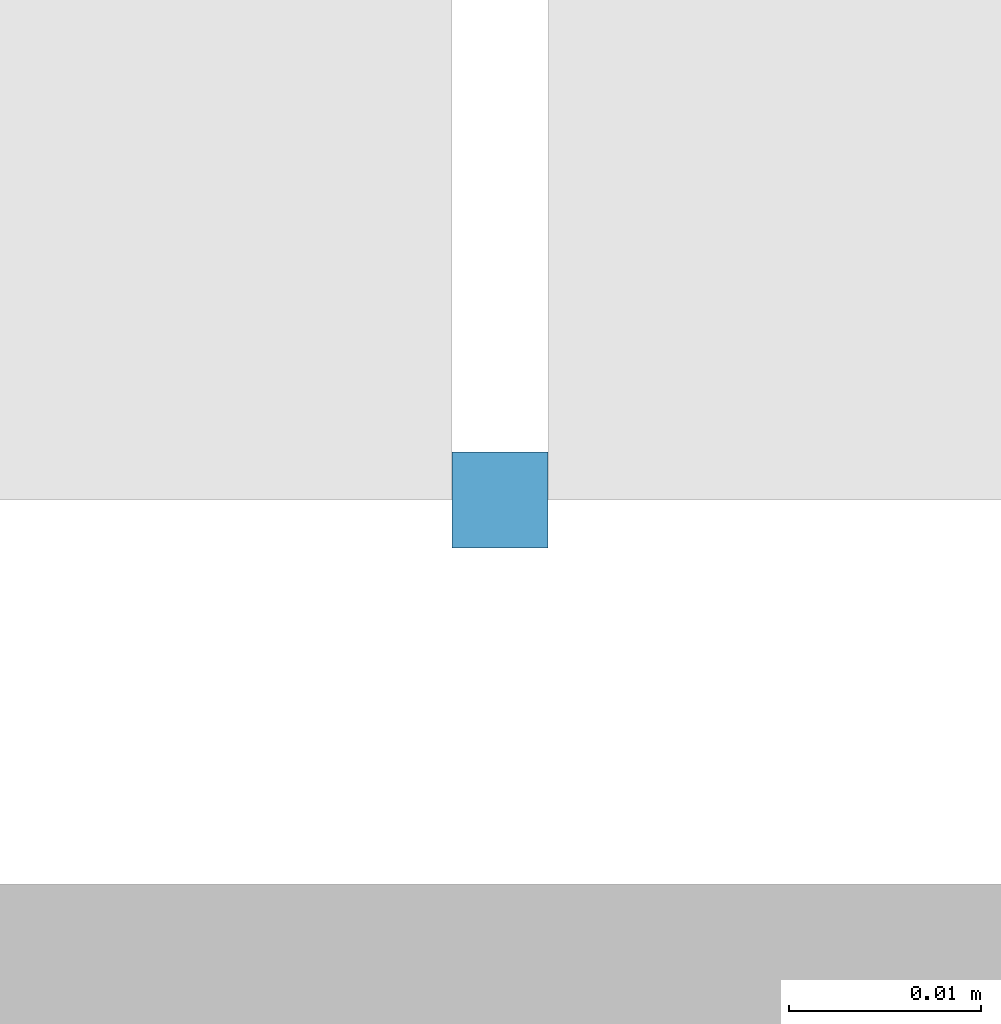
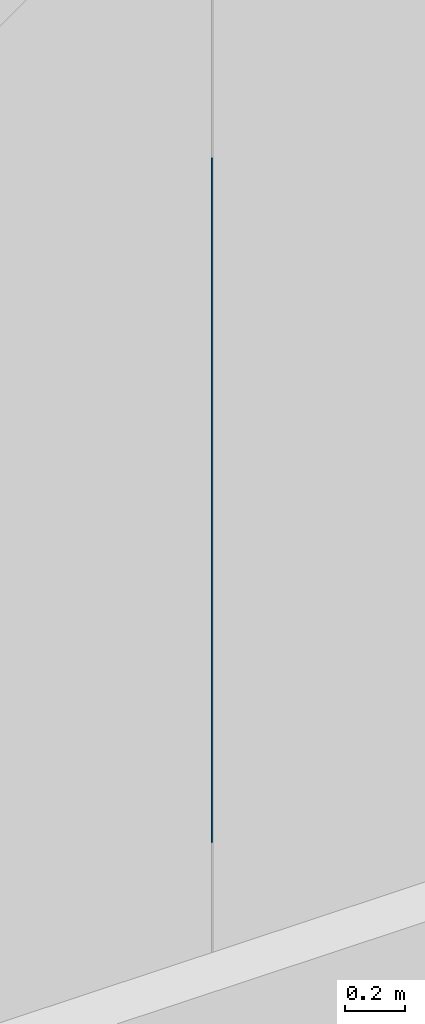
# One storey, part 96 of 302: 1 member, 1 element without a shape of its own.
"""IFC2X3 building model written with IfcOpenShell, lengths in metres."""

from ifc_helpers import new_model, entity, si_unit, converted_unit, derived_unit, direction, frame, frame_2d, origin, place, context, subcontext, project, spatial, rectangle, extrude, source, transform, mapped, material, type_object, type_shapes, element, aggregate, save


model = new_model("IFC2X3")

# Units and contexts
model_context = context("Model", 3, precision=1e-05, world=origin(), true_north=direction((6.12303176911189e-17, 1.0)))
body_context = subcontext(model_context, "Body", "Model", "MODEL_VIEW")
ifc_project = project(units=[si_unit("LENGTHUNIT", "METRE"), si_unit("AREAUNIT", "SQUARE_METRE"), si_unit("VOLUMEUNIT", "CUBIC_METRE"), converted_unit("PLANEANGLEUNIT", "DEGREE", entity("IfcRatioMeasure", 0.0174532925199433), si_unit("PLANEANGLEUNIT", "RADIAN"), dimensions=[0, 0, 0, 0, 0, 0, 0]), si_unit("MASSUNIT", "GRAM", prefix="KILO"), derived_unit("MASSDENSITYUNIT", [(si_unit("MASSUNIT", "GRAM", prefix="KILO"), 1), (si_unit("LENGTHUNIT", "METRE"), -3)]), derived_unit("MOMENTOFINERTIAUNIT", [(si_unit("LENGTHUNIT", "METRE"), 4)]), si_unit("TIMEUNIT", "SECOND"), si_unit("FREQUENCYUNIT", "HERTZ"), si_unit("THERMODYNAMICTEMPERATUREUNIT", "DEGREE_CELSIUS"), derived_unit("THERMALTRANSMITTANCEUNIT", [(si_unit("MASSUNIT", "GRAM", prefix="KILO"), 1), (si_unit("THERMODYNAMICTEMPERATUREUNIT", "KELVIN"), -1), (si_unit("TIMEUNIT", "SECOND"), -3)]), derived_unit("VOLUMETRICFLOWRATEUNIT", [(si_unit("LENGTHUNIT", "METRE"), 3), (si_unit("TIMEUNIT", "SECOND"), -1)]), si_unit("ELECTRICCURRENTUNIT", "AMPERE"), si_unit("ELECTRICVOLTAGEUNIT", "VOLT"), si_unit("POWERUNIT", "WATT"), si_unit("FORCEUNIT", "NEWTON", prefix="KILO"), si_unit("ILLUMINANCEUNIT", "LUX"), si_unit("LUMINOUSFLUXUNIT", "LUMEN"), si_unit("LUMINOUSINTENSITYUNIT", "CANDELA"), derived_unit("USERDEFINED", [(si_unit("MASSUNIT", "GRAM", prefix="KILO"), -1), (si_unit("LENGTHUNIT", "METRE"), -2), (si_unit("TIMEUNIT", "SECOND"), 3), (si_unit("LUMINOUSFLUXUNIT", "LUMEN"), 1)]), derived_unit("LINEARVELOCITYUNIT", [(si_unit("LENGTHUNIT", "METRE"), 1), (si_unit("TIMEUNIT", "SECOND"), -1)]), si_unit("PRESSUREUNIT", "PASCAL"), derived_unit("USERDEFINED", [(si_unit("LENGTHUNIT", "METRE"), -2), (si_unit("MASSUNIT", "GRAM", prefix="KILO"), 1), (si_unit("TIMEUNIT", "SECOND"), -2)]), derived_unit("LINEARFORCEUNIT", [(si_unit("MASSUNIT", "GRAM", prefix="KILO"), 1), (si_unit("LENGTHUNIT", "METRE"), 1), (si_unit("TIMEUNIT", "SECOND"), -2), (si_unit("LENGTHUNIT", "METRE"), -1)]), derived_unit("PLANARFORCEUNIT", [(si_unit("MASSUNIT", "GRAM", prefix="KILO"), 1), (si_unit("LENGTHUNIT", "METRE"), 1), (si_unit("TIMEUNIT", "SECOND"), -2), (si_unit("LENGTHUNIT", "METRE"), -2)])], contexts=[model_context])

# Site, building, storey
site_placement = place(None, origin())
site = spatial("IfcSite", under=ifc_project, at=site_placement, Name="Default", CompositionType="ELEMENT")
building_placement = place(site_placement, origin())
building = spatial("IfcBuilding", under=site, at=building_placement, CompositionType="ELEMENT")
storey_placement = place(building_placement, frame((0.0, 0.0, -1.3)))
storey = spatial("IfcBuildingStorey", under=building, at=storey_placement, Name="00_EG", CompositionType="ELEMENT", Elevation=-1.3)

# Curtain wall, member
curtain_wall_type = type_object("IfcCurtainWallType", Name="Fassade:Curtain Wall 1", PredefinedType="NOTDEFINED")
curtain_wall_placement = place(storey_placement, frame((0.0, 0.0, 1.3)))
curtain_wall = element("IfcCurtainWall", 1, at=curtain_wall_placement, inside=storey, type_object=curtain_wall_type, Name="Fassade:Curtain Wall 1", ObjectType="Fassade:Curtain Wall 1")
ifc_material = material(Name="Aluminium")
member_type = type_object("IfcMemberType", Name="Rectangular Mullion:Paneele Spalt", PredefinedType="MULLION", material=ifc_material)
shared_shape = source(origin(), body_context, "Body", "SweptSolid", [
    extrude(rectangle(XDim=0.005, YDim=0.005, at=frame_2d((0.0, -6.50521303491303e-19), x_axis=(1.0, 0.0))), frame((0.0, 0.0, -2.77), z_axis=(0.0, 0.0, 1.0), x_axis=(0.0, -1.0, 0.0)), (0.0, 0.0, 1.0), 2.77),
])
type_shapes(member_type, [shared_shape])
member_placement = place(storey_placement, frame((-218.610111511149, 45.578088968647, 5.73), z_axis=(0.0, 0.0, -1.0), x_axis=(-1.0, 0.0, 0.0)))
member = element("IfcMember", 2, at=member_placement, type_object=member_type, material=ifc_material, Name="Rectangular Mullion:Paneele Spalt", ObjectType="Rectangular Mullion:Paneele Spalt", context=body_context, shape_type="MappedRepresentation", body=[
    mapped(shared_shape, transform((0.0, 0.0, 0.0), scale=1.0)),
])
aggregate(curtain_wall, [member])

save(model, "model.ifc")
